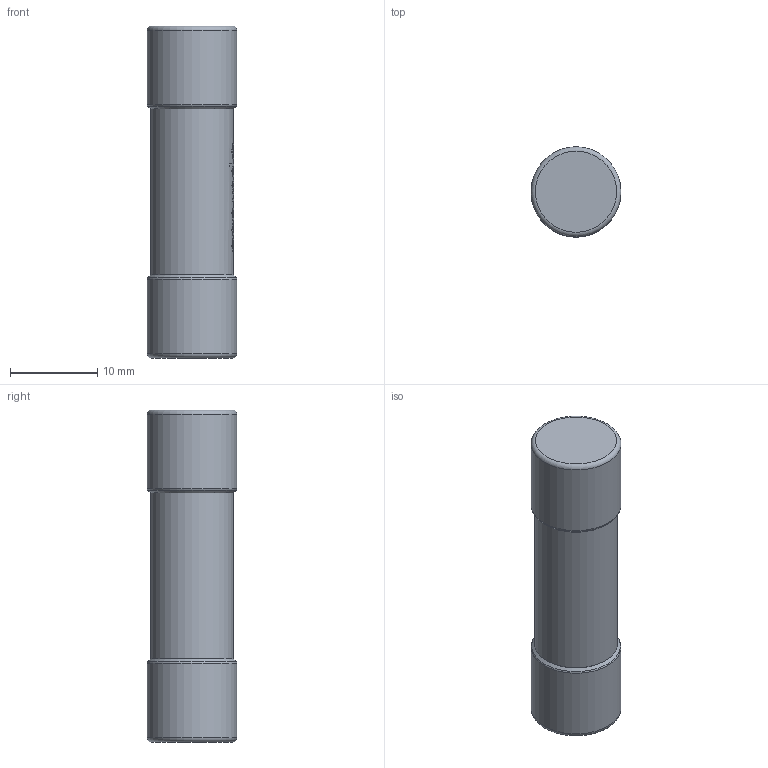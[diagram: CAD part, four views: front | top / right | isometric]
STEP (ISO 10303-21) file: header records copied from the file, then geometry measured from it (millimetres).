
FILE_DESCRIPTION(/* description */ (''),/* implementation_level */ '2;1');
FILE_NAME(/* name */ 'C:\Users\Hani\Desktop\work\FPK\FPK.stp',/* time_stamp */ '2021-08-28T09:22:19-07:00',/* author */ ('Hani'),/* organization */ (''),/* preprocessor_version */ 'ST-DEVELOPER v17',/* originating_system */ 'Autodesk Inventor 2019',/* authorisation */ '');
FILE_SCHEMA (('AUTOMOTIVE_DESIGN { 1 0 10303 214 3 1 1 }'));
Length unit declared in the file: inch
Products named in the file (1): FPK
Bounding box: 10.3 x 10.3 x 38 mm (x, y, z)
Volume: 2917.2 mm3; surface area: 1888.9 mm2
Topology: 1 solids, 1 shells, 151 faces, 425 edges, 281 vertices
Faces by surface type: bspline 67, plane 60, cylinder 17, torus 5, cone 2
Full cylindrical faces by diameter (mm): 9.5 x1, 9.538 x1, 10.3 x2
Entity records: 6401 total; most frequent: CARTESIAN_POINT 2817, ORIENTED_EDGE 850, DIRECTION 547, EDGE_CURVE 425, VERTEX_POINT 281, LINE 191, VECTOR 191, AXIS2_PLACEMENT_3D 178
